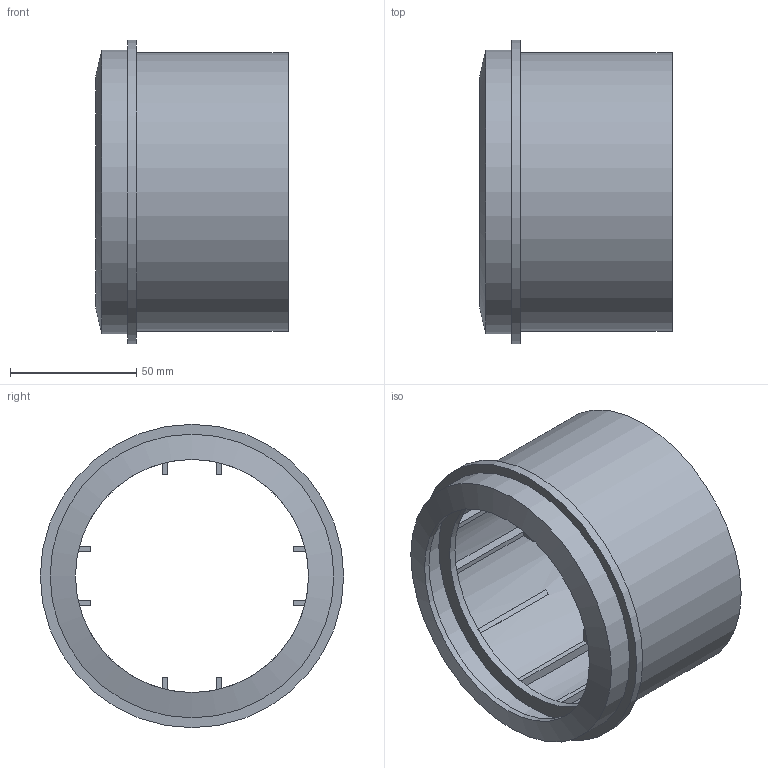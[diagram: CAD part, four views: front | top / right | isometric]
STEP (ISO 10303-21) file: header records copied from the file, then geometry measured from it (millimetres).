
FILE_DESCRIPTION(/* description */ (''),/* implementation_level */ '2;1');
FILE_NAME(/* name */ 'Z:\Geberit\Export\NewStep\Übergangsstück_Ipart\stp\367928.stp',/* time_stamp */ '2014-04-03T18:47:14+02:00',/* author */ ('ML'),/* organization */ (''),/* preprocessor_version */ 'ST-DEVELOPER v15.2',/* originating_system */ 'Autodesk Inventor 2014',/* authorisation */ '');
FILE_SCHEMA (('AUTOMOTIVE_DESIGN { 1 0 10303 214 3 1 1 }'));
Length unit declared in the file: millimetre
Products named in the file (1): 367928
Bounding box: 76 x 120 x 120 mm (x, y, z)
Volume: 128388.7 mm3; surface area: 67330.3 mm2
Topology: 1 solids, 1 shells, 93 faces, 255 edges, 166 vertices
Faces by surface type: plane 84, cylinder 7, cone 2
Full cylindrical faces by diameter (mm): 92.2 x2, 100.95 x1, 104.3 x1, 110 x1, 112.2 x1, 120 x1
Entity records: 2972 total; most frequent: CARTESIAN_POINT 502, ORIENTED_EDGE 488, DIRECTION 476, EDGE_CURVE 244, LINE 200, VECTOR 200, VERTEX_POINT 164, AXIS2_PLACEMENT_3D 138
